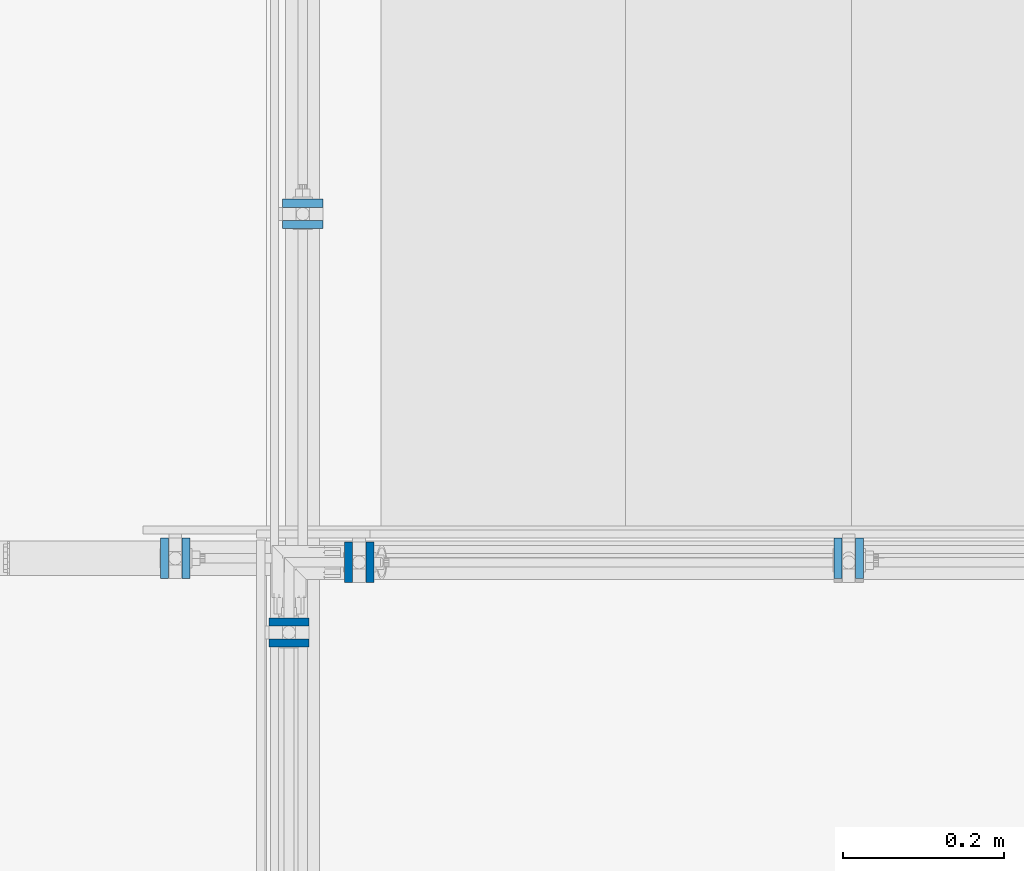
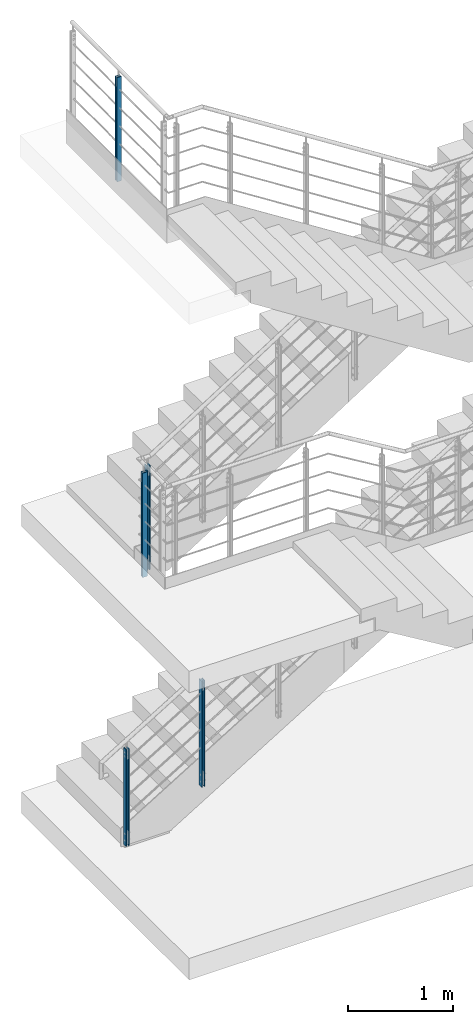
# One storey, part 2 of 98: 10 columns, 20 openings.
"""IFC2X3 building model written with IfcOpenShell, lengths in millimetres."""

from ifc_helpers import new_model, entity, si_unit, converted_unit, frame, frame_2d, origin, origin_with_axes, origin_2d, place, context, project, spatial, rectangle, circle, extrude, material, element, save


model = new_model("IFC2X3")

# Units and contexts
model_context = context("Model", 3, precision=1e-09, world=origin_with_axes())
ifc_project = project(units=[si_unit("LENGTHUNIT", "METRE", prefix="MILLI"), si_unit("AREAUNIT", "SQUARE_METRE"), si_unit("VOLUMEUNIT", "CUBIC_METRE"), converted_unit("PLANEANGLEUNIT", "DEGREE", entity("IfcPlaneAngleMeasure", 0.01745329), si_unit("PLANEANGLEUNIT", "RADIAN"), dimensions=[0, 0, 0, 0, 0, 0, 0])], contexts=[model_context])

# Site, building, storey
site_placement = place(None, origin_with_axes())
site = spatial("IfcSite", under=ifc_project, at=site_placement, Name="Maybachstra?e 2, 71563 Affalterbach", CompositionType="ELEMENT")
building_placement = place(site_placement, origin_with_axes())
building = spatial("IfcBuilding", under=site, at=building_placement, Name="Struktur 1", CompositionType="ELEMENT")
storey_placement = place(building_placement, origin_with_axes())
storey = spatial("IfcBuildingStorey", under=building, at=storey_placement, Name="Default Storey", CompositionType="ELEMENT", Elevation=0.0)

# Column, openings
ifc_material = material(Name="S235JR")
column_1_placement = place(None, frame((8028.279157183, -40.0, 1664.182336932), z_axis=(0.0, 0.0, -1.0), x_axis=(1.0, 0.0, 0.0)))
column_1 = element("IfcColumn", 1, at=column_1_placement, inside=storey, material=ifc_material, Name="-", ObjectType="-", context=model_context, shape_type="SweptSolid", body=[
    extrude(rectangle(XDim=10.0, YDim=50.0, at=origin_2d()), origin(), (0.0, 0.0, 1.0), 1237.6),
])
opening_1_placement = place(column_1_placement, frame((5.5, 7.001, 1102.6), z_axis=(1.0, 0.0, 0.0), x_axis=(0.0, 1.0, 0.0)))
element("IfcOpeningElement", 2, at=opening_1_placement, cuts=column_1, ObjectType="Opening", context=model_context, shape_type="SweptSolid", body=[
    extrude(circle(Radius=7.001, at=frame_2d((-7.001, 0.0), x_axis=(1.0, 0.0))), origin(), (0.0, 0.0, -1.0), 11.0),
])
opening_2_placement = place(column_1_placement, frame((5.5, 7.001, 1182.6), z_axis=(1.0, 0.0, 0.0), x_axis=(0.0, 1.0, 0.0)))
element("IfcOpeningElement", 3, at=opening_2_placement, cuts=column_1, ObjectType="Opening", context=model_context, shape_type="SweptSolid", body=[
    extrude(circle(Radius=7.001, at=frame_2d((-7.001, 0.0), x_axis=(1.0, 0.0))), origin(), (0.0, 0.0, -1.0), 11.0),
])
opening_3_placement = place(column_1_placement, frame((5.5, 7.001, 45.0), z_axis=(1.0, 0.0, 0.0), x_axis=(0.0, 1.0, 0.0)))
element("IfcOpeningElement", 4, at=opening_3_placement, cuts=column_1, ObjectType="Opening", context=model_context, shape_type="SweptSolid", body=[
    extrude(circle(Radius=7.001, at=frame_2d((-7.001, 0.0), x_axis=(1.0, 0.0))), origin(), (0.0, 0.0, -1.0), 11.0),
])
opening_4_placement = place(column_1_placement, frame((5.5, 7.001, 89.0), z_axis=(1.0, 0.0, 0.0), x_axis=(0.0, 1.0, 0.0)))
element("IfcOpeningElement", 5, at=opening_4_placement, cuts=column_1, ObjectType="Opening", context=model_context, shape_type="SweptSolid", body=[
    extrude(circle(Radius=7.001, at=frame_2d((-7.001, 0.0), x_axis=(1.0, 0.0))), origin(), (0.0, 0.0, -1.0), 11.0),
])

# Column
column_2_placement = place(None, frame((8001.779157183, -40.0, 1664.182336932), z_axis=(0.0, 0.0, -1.0), x_axis=(1.0, 0.0, 0.0)))
element("IfcColumn", 6, at=column_2_placement, inside=storey, material=ifc_material, Name="Gel?nder", ObjectType="Gel?nder", context=model_context, shape_type="SweptSolid", body=[
    extrude(rectangle(XDim=10.0, YDim=50.0, at=origin_2d()), origin(), (0.0, 0.0, 1.0), 1237.6),
])

# Column, openings
column_3_placement = place(None, frame((7193.280157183, -40.0, 1156.100356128), z_axis=(0.0, 0.0, -1.0), x_axis=(1.0, 0.0, 0.0)))
column_3 = element("IfcColumn", 7, at=column_3_placement, inside=storey, material=ifc_material, Name="-", ObjectType="-", context=model_context, shape_type="SweptSolid", body=[
    extrude(rectangle(XDim=10.0, YDim=50.0, at=origin_2d()), origin(), (0.0, 0.0, 1.0), 1127.6),
])
opening_5_placement = place(column_3_placement, frame((5.5, 7.001, 992.6), z_axis=(1.0, 0.0, 0.0), x_axis=(0.0, 1.0, 0.0)))
element("IfcOpeningElement", 8, at=opening_5_placement, cuts=column_3, ObjectType="Opening", context=model_context, shape_type="SweptSolid", body=[
    extrude(circle(Radius=7.001, at=frame_2d((-7.001, 0.0), x_axis=(1.0, 0.0))), origin(), (0.0, 0.0, -1.0), 11.0),
])
opening_6_placement = place(column_3_placement, frame((5.5, 7.001, 1072.6), z_axis=(1.0, 0.0, 0.0), x_axis=(0.0, 1.0, 0.0)))
element("IfcOpeningElement", 9, at=opening_6_placement, cuts=column_3, ObjectType="Opening", context=model_context, shape_type="SweptSolid", body=[
    extrude(circle(Radius=7.001, at=frame_2d((-7.001, 0.0), x_axis=(1.0, 0.0))), origin(), (0.0, 0.0, -1.0), 11.0),
])
opening_7_placement = place(column_3_placement, frame((5.5, 7.001, 45.0), z_axis=(1.0, 0.0, 0.0), x_axis=(0.0, 1.0, 0.0)))
element("IfcOpeningElement", 10, at=opening_7_placement, cuts=column_3, ObjectType="Opening", context=model_context, shape_type="SweptSolid", body=[
    extrude(circle(Radius=7.001, at=frame_2d((-7.001, 0.0), x_axis=(1.0, 0.0))), origin(), (0.0, 0.0, -1.0), 11.0),
])
opening_8_placement = place(column_3_placement, frame((5.5, 7.001, 89.0), z_axis=(1.0, 0.0, 0.0), x_axis=(0.0, 1.0, 0.0)))
element("IfcOpeningElement", 11, at=opening_8_placement, cuts=column_3, ObjectType="Opening", context=model_context, shape_type="SweptSolid", body=[
    extrude(circle(Radius=7.001, at=frame_2d((-7.001, 0.0), x_axis=(1.0, 0.0))), origin(), (0.0, 0.0, -1.0), 11.0),
])

# Columns
column_4_placement = place(None, frame((7166.780157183, -40.0, 1156.100356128), z_axis=(0.0, 0.0, -1.0), x_axis=(1.0, 0.0, 0.0)))
element("IfcColumn", 12, at=column_4_placement, inside=storey, material=ifc_material, Name="Girder", ObjectType="Girder", context=model_context, shape_type="SweptSolid", body=[
    extrude(rectangle(XDim=10.0, YDim=50.0, at=origin_2d()), origin(), (0.0, 0.0, 1.0), 1127.6),
])
column_5_placement = place(None, frame((7394.779157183, -45.0, 4387.6), z_axis=(0.0, 0.0, -1.0), x_axis=(1.0, 0.0, 0.0)))
element("IfcColumn", 13, at=column_5_placement, inside=storey, material=ifc_material, Name="Gel?nder", ObjectType="Gel?nder", context=model_context, shape_type="SweptSolid", body=[
    extrude(rectangle(XDim=10.0, YDim=50.0, at=origin_2d()), origin(), (0.0, 0.0, 1.0), 1217.6),
])

# Column, openings
column_6_placement = place(None, frame((7421.279157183, -45.0, 4387.6), z_axis=(0.0, 0.0, -1.0), x_axis=(1.0, 0.0, 0.0)))
column_6 = element("IfcColumn", 14, at=column_6_placement, inside=storey, material=ifc_material, Name="-", ObjectType="-", context=model_context, shape_type="SweptSolid", body=[
    extrude(rectangle(XDim=10.0, YDim=50.0, at=origin_2d()), origin(), (0.0, 0.0, 1.0), 1217.6),
])
opening_9_placement = place(column_6_placement, frame((5.5, 7.001, 1082.6), z_axis=(1.0, 0.0, 0.0), x_axis=(0.0, 1.0, 0.0)))
element("IfcOpeningElement", 15, at=opening_9_placement, cuts=column_6, ObjectType="Opening", context=model_context, shape_type="SweptSolid", body=[
    extrude(circle(Radius=7.001, at=frame_2d((-7.001, 0.0), x_axis=(1.0, 0.0))), origin(), (0.0, 0.0, -1.0), 11.0),
])
opening_10_placement = place(column_6_placement, frame((5.5, 7.001, 1162.6), z_axis=(1.0, 0.0, 0.0), x_axis=(0.0, 1.0, 0.0)))
element("IfcOpeningElement", 16, at=opening_10_placement, cuts=column_6, ObjectType="Opening", context=model_context, shape_type="SweptSolid", body=[
    extrude(circle(Radius=7.001, at=frame_2d((-7.001, 0.0), x_axis=(1.0, 0.0))), origin(), (0.0, 0.0, -1.0), 11.0),
])
opening_11_placement = place(column_6_placement, frame((5.5, 7.001, 45.0), z_axis=(1.0, 0.0, 0.0), x_axis=(0.0, 1.0, 0.0)))
element("IfcOpeningElement", 17, at=opening_11_placement, cuts=column_6, ObjectType="Opening", context=model_context, shape_type="SweptSolid", body=[
    extrude(circle(Radius=7.001, at=frame_2d((-7.001, 0.0), x_axis=(1.0, 0.0))), origin(), (0.0, 0.0, -1.0), 11.0),
])
opening_12_placement = place(column_6_placement, frame((5.5, 7.001, 89.0), z_axis=(1.0, 0.0, 0.0), x_axis=(0.0, 1.0, 0.0)))
element("IfcOpeningElement", 18, at=opening_12_placement, cuts=column_6, ObjectType="Opening", context=model_context, shape_type="SweptSolid", body=[
    extrude(circle(Radius=7.001, at=frame_2d((-7.001, 0.0), x_axis=(1.0, 0.0))), origin(), (0.0, 0.0, -1.0), 11.0),
])

# Column
column_7_placement = place(None, frame((7321.028157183, -145.25, 4387.6), z_axis=(0.0, 0.0, 1.0), x_axis=(0.0, 1.0, 0.0)))
element("IfcColumn", 19, at=column_7_placement, inside=storey, material=ifc_material, Name="Gel?nder", ObjectType="Gel?nder", context=model_context, shape_type="SweptSolid", body=[
    extrude(rectangle(XDim=10.0, YDim=50.0, at=origin_2d()), origin(), (0.0, 0.0, -1.0), 1217.6),
])

# Column, openings
column_8_placement = place(None, frame((7321.028157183, -118.75, 4387.6), z_axis=(0.0, 0.0, 1.0), x_axis=(0.0, 1.0, 0.0)))
column_8 = element("IfcColumn", 20, at=column_8_placement, inside=storey, material=ifc_material, Name="-", ObjectType="-", context=model_context, shape_type="SweptSolid", body=[
    extrude(rectangle(XDim=10.0, YDim=50.0, at=origin_2d()), origin(), (0.0, 0.0, -1.0), 1217.6),
])
opening_13_placement = place(column_8_placement, frame((5.5, 0.0, -1122.6), z_axis=(-1.0, 0.0, 0.0), x_axis=(0.0, -1.0, 0.0)))
element("IfcOpeningElement", 21, at=opening_13_placement, cuts=column_8, ObjectType="Opening", context=model_context, shape_type="SweptSolid", body=[
    extrude(circle(Radius=7.001, at=frame_2d((0.0, 40.0), x_axis=(1.0, 0.0))), origin(), (0.0, 0.0, 1.0), 11.0),
])
opening_14_placement = place(column_8_placement, frame((5.5, 0.0, -1122.6), z_axis=(-1.0, 0.0, 0.0), x_axis=(0.0, -1.0, 0.0)))
element("IfcOpeningElement", 22, at=opening_14_placement, cuts=column_8, ObjectType="Opening", context=model_context, shape_type="SweptSolid", body=[
    extrude(circle(Radius=7.001, at=frame_2d((0.0, -40.0), x_axis=(1.0, 0.0))), origin(), (0.0, 0.0, 1.0), 11.0),
])
opening_15_placement = place(column_8_placement, frame((5.5, 0.0, -67.0), z_axis=(-1.0, 0.0, 0.0), x_axis=(0.0, -1.0, 0.0)))
element("IfcOpeningElement", 23, at=opening_15_placement, cuts=column_8, ObjectType="Opening", context=model_context, shape_type="SweptSolid", body=[
    extrude(circle(Radius=7.001, at=frame_2d((0.0, 22.0), x_axis=(1.0, 0.0))), origin(), (0.0, 0.0, 1.0), 11.0),
])
opening_16_placement = place(column_8_placement, frame((5.5, 0.0, -67.0), z_axis=(-1.0, 0.0, 0.0), x_axis=(0.0, -1.0, 0.0)))
element("IfcOpeningElement", 24, at=opening_16_placement, cuts=column_8, ObjectType="Opening", context=model_context, shape_type="SweptSolid", body=[
    extrude(circle(Radius=7.001, at=frame_2d((0.0, -22.0), x_axis=(1.0, 0.0))), origin(), (0.0, 0.0, 1.0), 11.0),
])

# Column
column_9_placement = place(None, frame((7338.029157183, 373.75, 8682.599999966), z_axis=(0.0, 0.0, 1.0), x_axis=(0.0, 1.0, 0.0)))
element("IfcColumn", 25, at=column_9_placement, inside=storey, material=ifc_material, Name="Gel?nder", ObjectType="Gel?nder", context=model_context, shape_type="SweptSolid", body=[
    extrude(rectangle(XDim=10.0, YDim=50.0, at=origin_2d()), origin(), (0.0, 0.0, -1.0), 1217.6),
])

# Column, openings
column_10_placement = place(None, frame((7338.029157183, 400.25, 8682.599999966), z_axis=(0.0, 0.0, 1.0), x_axis=(0.0, 1.0, 0.0)))
column_10 = element("IfcColumn", 26, at=column_10_placement, inside=storey, material=ifc_material, Name="-", ObjectType="-", context=model_context, shape_type="SweptSolid", body=[
    extrude(rectangle(XDim=10.0, YDim=50.0, at=origin_2d()), origin(), (0.0, 0.0, -1.0), 1217.6),
])
opening_17_placement = place(column_10_placement, frame((5.5, 0.0, -1122.6), z_axis=(-1.0, 0.0, 0.0), x_axis=(0.0, -1.0, 0.0)))
element("IfcOpeningElement", 27, at=opening_17_placement, cuts=column_10, ObjectType="Opening", context=model_context, shape_type="SweptSolid", body=[
    extrude(circle(Radius=7.001, at=frame_2d((0.0, 40.0), x_axis=(1.0, 0.0))), origin(), (0.0, 0.0, 1.0), 11.0),
])
opening_18_placement = place(column_10_placement, frame((5.5, 0.0, -1122.6), z_axis=(-1.0, 0.0, 0.0), x_axis=(0.0, -1.0, 0.0)))
element("IfcOpeningElement", 28, at=opening_18_placement, cuts=column_10, ObjectType="Opening", context=model_context, shape_type="SweptSolid", body=[
    extrude(circle(Radius=7.001, at=frame_2d((0.0, -40.0), x_axis=(1.0, 0.0))), origin(), (0.0, 0.0, 1.0), 11.0),
])
opening_19_placement = place(column_10_placement, frame((5.5, 0.0, -67.0), z_axis=(-1.0, 0.0, 0.0), x_axis=(0.0, -1.0, 0.0)))
element("IfcOpeningElement", 29, at=opening_19_placement, cuts=column_10, ObjectType="Opening", context=model_context, shape_type="SweptSolid", body=[
    extrude(circle(Radius=7.001, at=frame_2d((0.0, 22.0), x_axis=(1.0, 0.0))), origin(), (0.0, 0.0, 1.0), 11.0),
])
opening_20_placement = place(column_10_placement, frame((5.5, 0.0, -67.0), z_axis=(-1.0, 0.0, 0.0), x_axis=(0.0, -1.0, 0.0)))
element("IfcOpeningElement", 30, at=opening_20_placement, cuts=column_10, ObjectType="Opening", context=model_context, shape_type="SweptSolid", body=[
    extrude(circle(Radius=7.001, at=frame_2d((0.0, -22.0), x_axis=(1.0, 0.0))), origin(), (0.0, 0.0, 1.0), 11.0),
])

save(model, "model.ifc")
